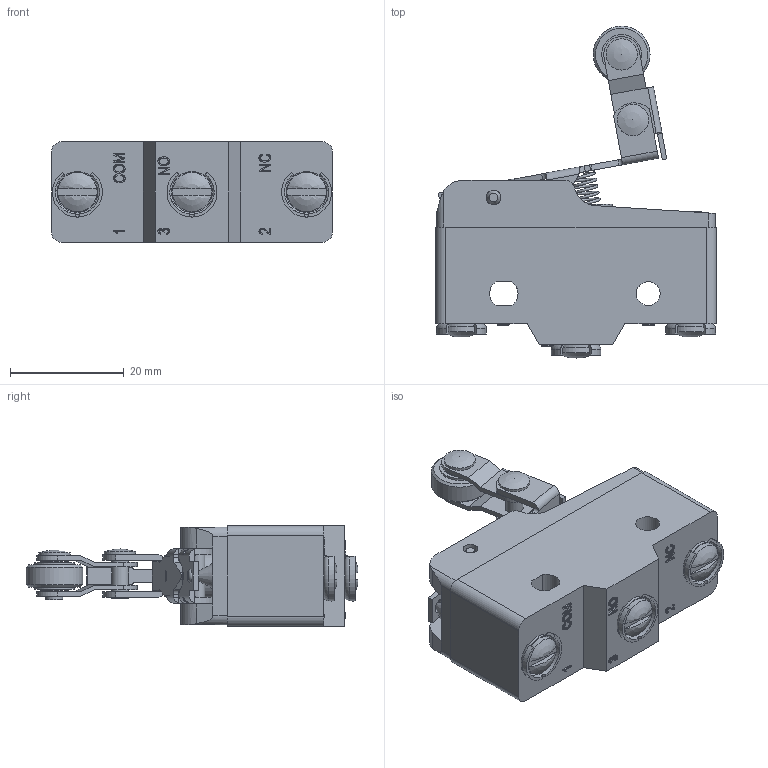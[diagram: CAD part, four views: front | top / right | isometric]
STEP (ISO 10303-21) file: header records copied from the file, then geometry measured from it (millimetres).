
FILE_DESCRIPTION((''),'2; 1');
FILE_NAME('','2026-03-27T16:23:18',(''),(''),'CST STEP Exporter V1.0','Unknown','');
FILE_SCHEMA(('CONFIG_CONTROL_DESIGN'));
Length unit declared in the file: metre
Assembly tree (19 placements, depth 2):
  (unnamed)
    (unnamed)
    (unnamed)
    (unnamed)
    (unnamed)
    (unnamed)
    (unnamed)
    (unnamed)
    (unnamed)
    (unnamed)
    (unnamed)
    (unnamed)
    (unnamed)
    (unnamed)
    (unnamed)
    (unnamed)
    (unnamed)
    (unnamed)
    (unnamed)
    (unnamed)
Bounding box: 49.4 x 58.38 x 17.7 mm (x, y, z)
Surface area: 18184.8 mm2 (no closed solid volume)
Topology: 0 solids, 20 shells, 529 faces, 1561 edges, 1065 vertices
Faces by surface type: plane 336, cylinder 106, extrusion 61, torus 8, cone 7, revolution 6, sphere 3, bspline 2
Full cylindrical faces by diameter (mm): 1.2 x1, 1.8 x1, 1.9 x2, 2.4 x1, 2.5 x1, 2.6 x3, 3 x2, 3.2 x4, 4.2 x1, 5 x1, 5.5 x2, 6.9 x3, 7 x2, 8.2 x1, 10 x1
Entity records: 24459 total; most frequent: CARTESIAN_POINT 6434, ORIENTED_EDGE 2758, DIRECTION 2563, EDGE_CURVE 1503, VECTOR 1072, VERTEX_POINT 1028, LINE 1011, AXIS2_PLACEMENT_3D 744
